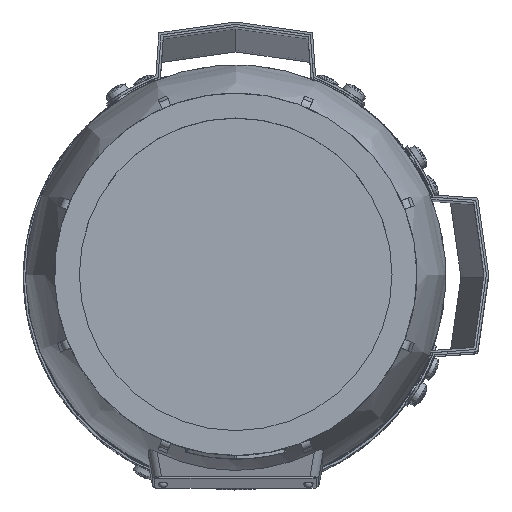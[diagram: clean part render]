
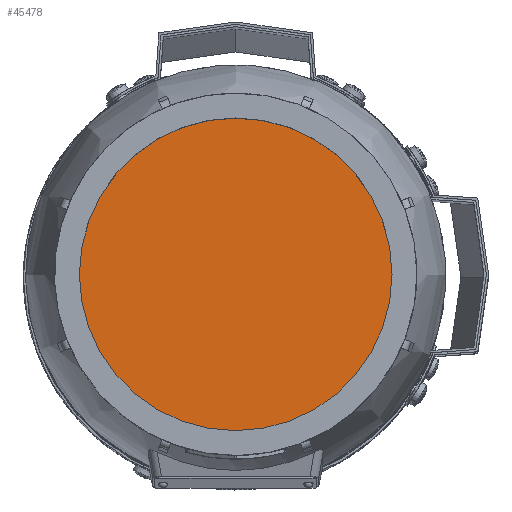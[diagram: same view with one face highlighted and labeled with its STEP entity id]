
A CAD part, top view. The second image highlights one B-rep face of the part: STEP entity #45478.
In plain terms, the highlighted planar face has unit normal (0, 0, 1) as drawn and (0, 1, 0) by its records, which use the part's own axes.
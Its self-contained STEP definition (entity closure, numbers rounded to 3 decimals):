
#9557=ORIENTED_EDGE('',*,*,#23295,.F.);
#23295=EDGE_CURVE('',#30164,#30164,#34791,.T.);
#30164=VERTEX_POINT('',#65638);
#34791=CIRCLE('',#47966,67.736);
#36867=EDGE_LOOP('',(#9557));
#40175=FACE_BOUND('',#36867,.T.);
#43501=PLANE('',#47965);
#45478=ADVANCED_FACE('',(#40175),#43501,.F.);
#47965=AXIS2_PLACEMENT_3D('',#65636,#52461,#52462);
#47966=AXIS2_PLACEMENT_3D('',#65637,#52463,#52464);
#52461=DIRECTION('',(0.,-1.,0.));
#52462=DIRECTION('',(0.,0.,-1.));
#52463=DIRECTION('',(0.,-1.,0.));
#52464=DIRECTION('',(0.,0.,-1.));
#65636=CARTESIAN_POINT('',(0.,154.,0.));
#65637=CARTESIAN_POINT('',(0.,154.,0.));
#65638=CARTESIAN_POINT('',(0.,154.,-67.736));
